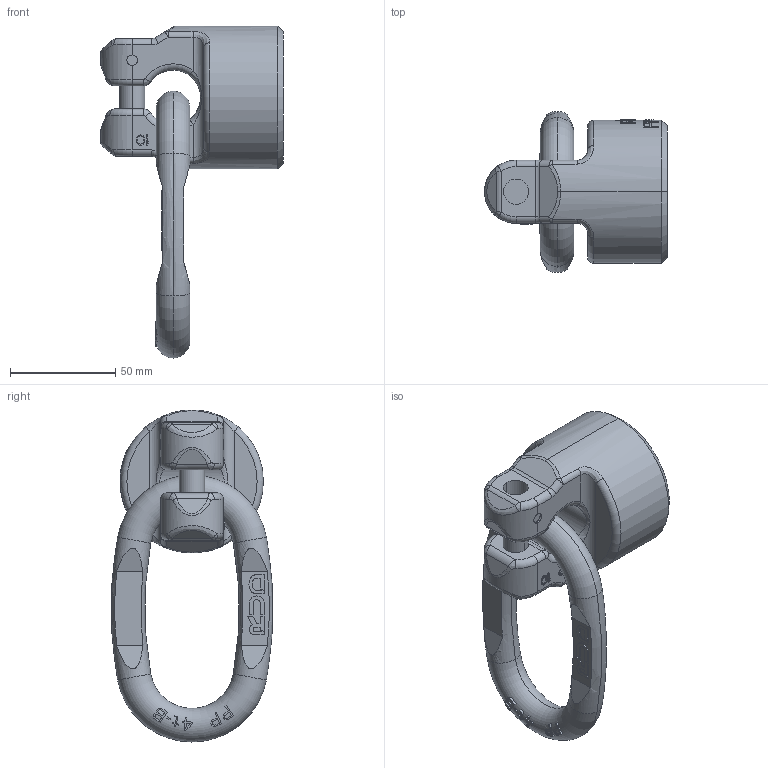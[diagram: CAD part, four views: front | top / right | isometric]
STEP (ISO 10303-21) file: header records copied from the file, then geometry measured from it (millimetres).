
FILE_DESCRIPTION((''),'2;1');
FILE_NAME('001-M31341-P-50_ASM','2018-04-26T',('Anja.Joas'),(''),'PRO/ENGINEER BY PARAMETRIC TECHNOLOGY CORPORATION, 2011490','PRO/ENGINEER BY PARAMETRIC TECHNOLOGY CORPORATION, 2011490','');
FILE_SCHEMA(('CONFIG_CONTROL_DESIGN'));
Length unit declared in the file: millimetre
Products named in the file (3): 001-M31341-P-20_AF0; 001-M31290-003; 001-M31341-P-50_ASM
Assembly tree (2 placements, depth 2):
  001-M31341-P-50_ASM
    001-M31341-P-20_AF0
    001-M31290-003
Bounding box: 87 x 76.57 x 158 mm (x, y, z)
Volume: 248451.2 mm3; surface area: 38355.3 mm2
Topology: 2 solids, 2 shells, 575 faces, 1525 edges, 990 vertices
Faces by surface type: plane 450, cylinder 61, torus 31, bspline 26, sphere 4, cone 2, extrusion 1
Entity records: 19774 total; most frequent: CARTESIAN_POINT 6005, ORIENTED_EDGE 3050, DIRECTION 2522, EDGE_CURVE 1525, VERTEX_POINT 990, VECTOR 922, LINE 921, AXIS2_PLACEMENT_3D 800
